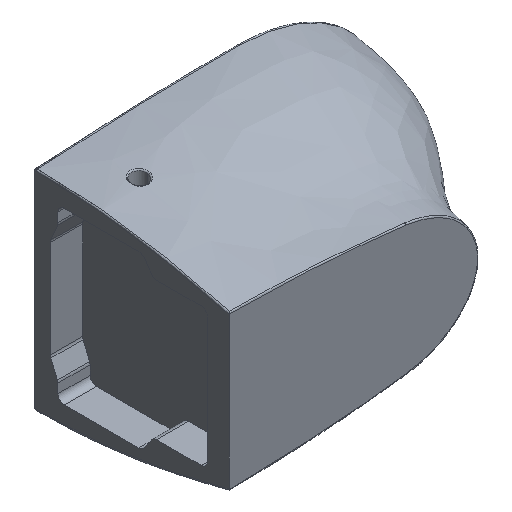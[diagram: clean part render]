
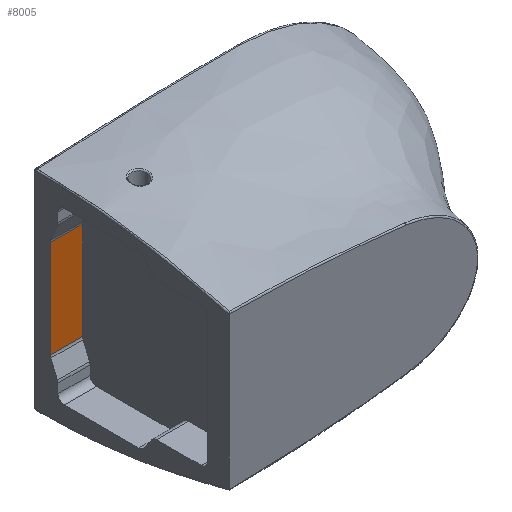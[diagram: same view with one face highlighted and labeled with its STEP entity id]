
A CAD part, isometric view. The second image highlights one B-rep face of the part: STEP entity #8005.
In plain terms, the highlighted planar face has unit normal (0, -1, 0).
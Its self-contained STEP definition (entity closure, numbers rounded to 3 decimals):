
#387 = VECTOR ( 'NONE', #3828, 1000. ) ;
#458 = ORIENTED_EDGE ( 'NONE', *, *, #5757, .T. ) ;
#535 = EDGE_LOOP ( 'NONE', ( #458, #1730, #6991, #7204 ) ) ;
#571 = EDGE_CURVE ( 'NONE', #6629, #3375, #1744, .T. ) ;
#973 = VERTEX_POINT ( 'NONE', #4042 ) ;
#995 = DIRECTION ( 'NONE',  ( 0., 0., 1. ) ) ;
#1598 = DIRECTION ( 'NONE',  ( 0., 1., 0. ) ) ;
#1704 = CARTESIAN_POINT ( 'NONE',  ( 56., -26.865, 75.89 ) ) ;
#1730 = ORIENTED_EDGE ( 'NONE', *, *, #4579, .T. ) ;
#1744 = LINE ( 'NONE', #1704, #5227 ) ;
#1857 = CARTESIAN_POINT ( 'NONE',  ( 56., -26.865, 0. ) ) ;
#1899 = LINE ( 'NONE', #1857, #6860 ) ;
#2572 = CARTESIAN_POINT ( 'NONE',  ( 6., -26.865, 75.89 ) ) ;
#2802 = CARTESIAN_POINT ( 'NONE',  ( 6., -26.865, -75.89 ) ) ;
#3093 = VECTOR ( 'NONE', #4946, 1000. ) ;
#3116 = DIRECTION ( 'NONE',  ( 1., 0., 0. ) ) ;
#3375 = VERTEX_POINT ( 'NONE', #8314 ) ;
#3693 = CARTESIAN_POINT ( 'NONE',  ( 6., -26.865, 0. ) ) ;
#3828 = DIRECTION ( 'NONE',  ( 1., 0., 0. ) ) ;
#3872 = LINE ( 'NONE', #5253, #387 ) ;
#4042 = CARTESIAN_POINT ( 'NONE',  ( 56., -26.865, -75.89 ) ) ;
#4579 = EDGE_CURVE ( 'NONE', #5729, #973, #3872, .T. ) ;
#4861 = PLANE ( 'NONE',  #7545 ) ;
#4946 = DIRECTION ( 'NONE',  ( 0., 0., -1. ) ) ;
#5227 = VECTOR ( 'NONE', #3116, 1000. ) ;
#5253 = CARTESIAN_POINT ( 'NONE',  ( 56., -26.865, -75.89 ) ) ;
#5729 = VERTEX_POINT ( 'NONE', #2802 ) ;
#5756 = DIRECTION ( 'NONE',  ( 0., 0., -1. ) ) ;
#5757 = EDGE_CURVE ( 'NONE', #6629, #5729, #6748, .T. ) ;
#6629 = VERTEX_POINT ( 'NONE', #2572 ) ;
#6748 = LINE ( 'NONE', #3693, #3093 ) ;
#6860 = VECTOR ( 'NONE', #5756, 1000. ) ;
#6870 = FACE_OUTER_BOUND ( 'NONE', #535, .T. ) ;
#6991 = ORIENTED_EDGE ( 'NONE', *, *, #7602, .F. ) ;
#7204 = ORIENTED_EDGE ( 'NONE', *, *, #571, .F. ) ;
#7470 = CARTESIAN_POINT ( 'NONE',  ( 56., -26.865, 0. ) ) ;
#7545 = AXIS2_PLACEMENT_3D ( 'NONE', #7470, #1598, #995 ) ;
#7602 = EDGE_CURVE ( 'NONE', #3375, #973, #1899, .T. ) ;
#8005 = ADVANCED_FACE ( 'NONE', ( #6870 ), #4861, .F. ) ;
#8314 = CARTESIAN_POINT ( 'NONE',  ( 56., -26.865, 75.89 ) ) ;
